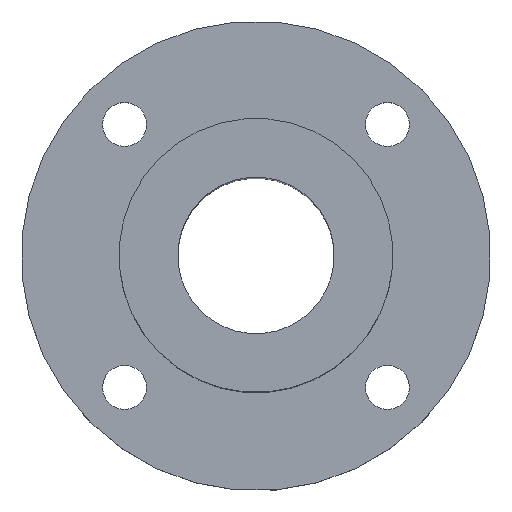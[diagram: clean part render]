
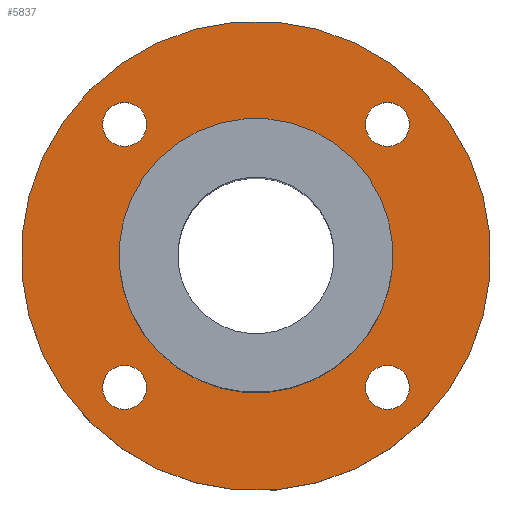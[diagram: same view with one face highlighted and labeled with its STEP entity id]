
A CAD part, top view. The second image highlights one B-rep face of the part: STEP entity #5837.
In plain terms, the highlighted planar face has unit normal (0, 0, 1).
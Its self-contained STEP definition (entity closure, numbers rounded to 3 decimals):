
#112=CIRCLE('',#6205,14.);
#116=CIRCLE('',#6213,24.);
#117=CIRCLE('',#6215,2.25);
#118=CIRCLE('',#6216,2.25);
#119=CIRCLE('',#6217,2.25);
#120=CIRCLE('',#6218,2.25);
#525=ORIENTED_EDGE('',*,*,#2201,.F.);
#526=ORIENTED_EDGE('',*,*,#2202,.F.);
#527=ORIENTED_EDGE('',*,*,#2203,.F.);
#528=ORIENTED_EDGE('',*,*,#2204,.F.);
#529=ORIENTED_EDGE('',*,*,#2196,.T.);
#530=ORIENTED_EDGE('',*,*,#2200,.T.);
#2196=EDGE_CURVE('',#3037,#3037,#112,.F.);
#2200=EDGE_CURVE('',#3041,#3041,#116,.T.);
#2201=EDGE_CURVE('',#3042,#3042,#117,.T.);
#2202=EDGE_CURVE('',#3043,#3043,#118,.T.);
#2203=EDGE_CURVE('',#3044,#3044,#119,.T.);
#2204=EDGE_CURVE('',#3045,#3045,#120,.T.);
#3037=VERTEX_POINT('',#9199);
#3041=VERTEX_POINT('',#9211);
#3042=VERTEX_POINT('',#9214);
#3043=VERTEX_POINT('',#9216);
#3044=VERTEX_POINT('',#9218);
#3045=VERTEX_POINT('',#9220);
#4786=EDGE_LOOP('',(#525));
#4787=EDGE_LOOP('',(#526));
#4788=EDGE_LOOP('',(#527));
#4789=EDGE_LOOP('',(#528));
#4790=EDGE_LOOP('',(#529));
#4791=EDGE_LOOP('',(#530));
#5205=FACE_BOUND('',#4786,.T.);
#5206=FACE_BOUND('',#4787,.T.);
#5207=FACE_BOUND('',#4788,.T.);
#5208=FACE_BOUND('',#4789,.T.);
#5209=FACE_BOUND('',#4790,.T.);
#5210=FACE_BOUND('',#4791,.T.);
#5566=PLANE('',#6214);
#5837=ADVANCED_FACE('',(#5205,#5206,#5207,#5208,#5209,#5210),#5566,.T.);
#6205=AXIS2_PLACEMENT_3D('',#9198,#6750,#6751);
#6213=AXIS2_PLACEMENT_3D('',#9210,#6766,#6767);
#6214=AXIS2_PLACEMENT_3D('',#9212,#6768,#6769);
#6215=AXIS2_PLACEMENT_3D('',#9213,#6770,#6771);
#6216=AXIS2_PLACEMENT_3D('',#9215,#6772,#6773);
#6217=AXIS2_PLACEMENT_3D('',#9217,#6774,#6775);
#6218=AXIS2_PLACEMENT_3D('',#9219,#6776,#6777);
#6750=DIRECTION('',(0.,0.,1.));
#6751=DIRECTION('',(0.707,-0.707,0.));
#6766=DIRECTION('',(0.,0.,1.));
#6767=DIRECTION('',(0.707,-0.707,0.));
#6768=DIRECTION('',(0.,0.,1.));
#6769=DIRECTION('',(0.707,-0.707,0.));
#6770=DIRECTION('',(0.,0.,1.));
#6771=DIRECTION('',(0.707,-0.707,0.));
#6772=DIRECTION('',(0.,0.,1.));
#6773=DIRECTION('',(0.707,-0.707,0.));
#6774=DIRECTION('',(0.,0.,1.));
#6775=DIRECTION('',(0.707,-0.707,0.));
#6776=DIRECTION('',(0.,0.,1.));
#6777=DIRECTION('',(0.707,-0.707,0.));
#9198=CARTESIAN_POINT('',(0.,0.,0.));
#9199=CARTESIAN_POINT('',(9.899,-9.899,0.));
#9210=CARTESIAN_POINT('',(0.,0.,0.));
#9211=CARTESIAN_POINT('',(16.971,-16.971,0.));
#9212=CARTESIAN_POINT('',(0.,0.,0.));
#9213=CARTESIAN_POINT('',(13.435,13.435,0.));
#9214=CARTESIAN_POINT('',(15.026,11.844,0.));
#9215=CARTESIAN_POINT('',(-13.435,13.435,0.));
#9216=CARTESIAN_POINT('',(-11.844,11.844,0.));
#9217=CARTESIAN_POINT('',(-13.435,-13.435,0.));
#9218=CARTESIAN_POINT('',(-11.844,-15.026,0.));
#9219=CARTESIAN_POINT('',(13.435,-13.435,0.));
#9220=CARTESIAN_POINT('',(15.026,-15.026,0.));
